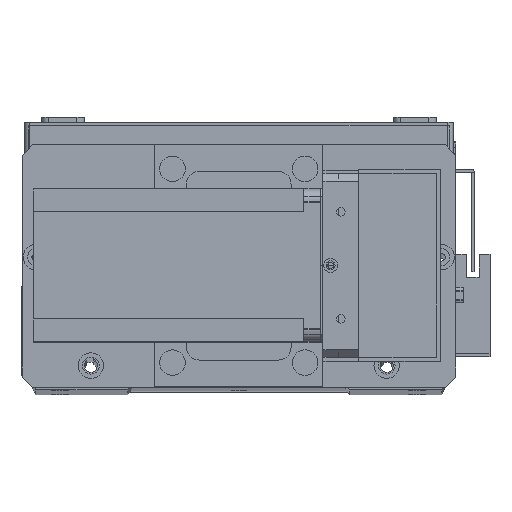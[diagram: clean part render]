
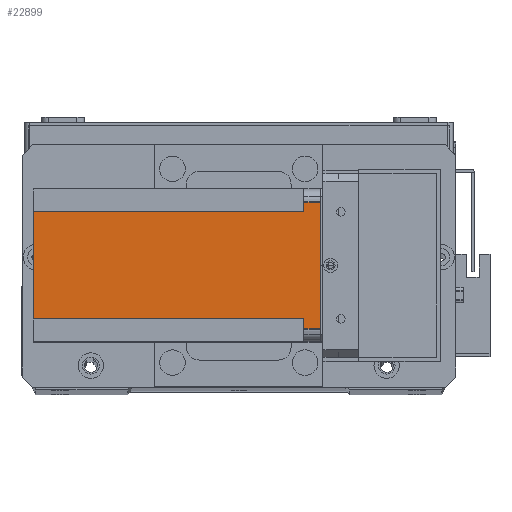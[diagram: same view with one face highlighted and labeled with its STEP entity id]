
A CAD part, top view. The second image highlights one B-rep face of the part: STEP entity #22899.
In plain terms, the highlighted planar face has unit normal (0, 0, 1) as drawn and (-1, 0, 0) by its records, which use the part's own axes.
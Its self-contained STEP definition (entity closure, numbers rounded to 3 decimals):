
#583 = DIRECTION ( 'NONE',  ( 0., 0., 1. ) ) ;
#758 = CARTESIAN_POINT ( 'NONE',  ( 0., 5., -112.5 ) ) ;
#873 = VECTOR ( 'NONE', #26463, 1000. ) ;
#2534 = ORIENTED_EDGE ( 'NONE', *, *, #23767, .F. ) ;
#2780 = VECTOR ( 'NONE', #22424, 1000. ) ;
#3725 = CARTESIAN_POINT ( 'NONE',  ( 0., 60., -6.5 ) ) ;
#4430 = VECTOR ( 'NONE', #19836, 1000. ) ;
#4813 = VERTEX_POINT ( 'NONE', #5369 ) ;
#5369 = CARTESIAN_POINT ( 'NONE',  ( 0., 5., 0. ) ) ;
#5511 = ORIENTED_EDGE ( 'NONE', *, *, #10876, .T. ) ;
#6069 = CARTESIAN_POINT ( 'NONE',  ( 0., 9., -112.5 ) ) ;
#7075 = VERTEX_POINT ( 'NONE', #22871 ) ;
#7106 = VERTEX_POINT ( 'NONE', #24589 ) ;
#7140 = CARTESIAN_POINT ( 'NONE',  ( 0., 9., -6.5 ) ) ;
#7181 = EDGE_CURVE ( 'NONE', #7075, #11929, #29492, .T. ) ;
#8027 = CARTESIAN_POINT ( 'NONE',  ( 0., 55., -112.5 ) ) ;
#8062 = ORIENTED_EDGE ( 'NONE', *, *, #12916, .F. ) ;
#8356 = VECTOR ( 'NONE', #583, 1000. ) ;
#8361 = LINE ( 'NONE', #26540, #873 ) ;
#8452 = AXIS2_PLACEMENT_3D ( 'NONE', #30949, #12118, #28667 ) ;
#8793 = LINE ( 'NONE', #758, #8356 ) ;
#9640 = ORIENTED_EDGE ( 'NONE', *, *, #9863, .F. ) ;
#9863 = EDGE_CURVE ( 'NONE', #16123, #4813, #20286, .T. ) ;
#10345 = EDGE_LOOP ( 'NONE', ( #14745, #5511, #9640, #15045, #24399, #2534, #25313, #8062 ) ) ;
#10527 = VERTEX_POINT ( 'NONE', #7140 ) ;
#10596 = CARTESIAN_POINT ( 'NONE',  ( 0., 51., -112.5 ) ) ;
#10876 = EDGE_CURVE ( 'NONE', #19137, #4813, #8793, .T. ) ;
#11025 = VECTOR ( 'NONE', #24300, 1000. ) ;
#11929 = VERTEX_POINT ( 'NONE', #6069 ) ;
#12118 = DIRECTION ( 'NONE',  ( -1., 0., 0. ) ) ;
#12916 = EDGE_CURVE ( 'NONE', #10527, #11929, #29913, .T. ) ;
#13279 = EDGE_CURVE ( 'NONE', #19137, #10527, #8361, .T. ) ;
#13796 = CARTESIAN_POINT ( 'NONE',  ( 0., 55., -6.5 ) ) ;
#14745 = ORIENTED_EDGE ( 'NONE', *, *, #13279, .F. ) ;
#15045 = ORIENTED_EDGE ( 'NONE', *, *, #26185, .T. ) ;
#15764 = DIRECTION ( 'NONE',  ( 0., 1., 0. ) ) ;
#16123 = VERTEX_POINT ( 'NONE', #30032 ) ;
#16404 = LINE ( 'NONE', #10596, #2780 ) ;
#17778 = CARTESIAN_POINT ( 'NONE',  ( 0., 0., 0. ) ) ;
#18059 = DIRECTION ( 'NONE',  ( 0., -1., 0. ) ) ;
#18713 = CARTESIAN_POINT ( 'NONE',  ( 0., 5., -6.5 ) ) ;
#19137 = VERTEX_POINT ( 'NONE', #18713 ) ;
#19826 = LINE ( 'NONE', #3725, #26212 ) ;
#19836 = DIRECTION ( 'NONE',  ( 0., 0., -1. ) ) ;
#20286 = LINE ( 'NONE', #17778, #20383 ) ;
#20383 = VECTOR ( 'NONE', #18059, 1000. ) ;
#21558 = PLANE ( 'NONE',  #8452 ) ;
#22424 = DIRECTION ( 'NONE',  ( 0., 0., 1. ) ) ;
#22871 = CARTESIAN_POINT ( 'NONE',  ( 0., 51., -112.5 ) ) ;
#22899 = ADVANCED_FACE ( 'NONE', ( #26205 ), #21558, .T. ) ;
#23617 = LINE ( 'NONE', #8027, #4430 ) ;
#23767 = EDGE_CURVE ( 'NONE', #7075, #7106, #16404, .T. ) ;
#23969 = CARTESIAN_POINT ( 'NONE',  ( 0., 9., -112.5 ) ) ;
#24300 = DIRECTION ( 'NONE',  ( 0., 0., -1. ) ) ;
#24399 = ORIENTED_EDGE ( 'NONE', *, *, #26312, .F. ) ;
#24589 = CARTESIAN_POINT ( 'NONE',  ( 0., 51., -6.5 ) ) ;
#25313 = ORIENTED_EDGE ( 'NONE', *, *, #7181, .T. ) ;
#25883 = DIRECTION ( 'NONE',  ( 0., -1., 0. ) ) ;
#26185 = EDGE_CURVE ( 'NONE', #16123, #29074, #23617, .T. ) ;
#26205 = FACE_OUTER_BOUND ( 'NONE', #10345, .T. ) ;
#26212 = VECTOR ( 'NONE', #15764, 1000. ) ;
#26312 = EDGE_CURVE ( 'NONE', #7106, #29074, #19826, .T. ) ;
#26463 = DIRECTION ( 'NONE',  ( 0., 1., 0. ) ) ;
#26540 = CARTESIAN_POINT ( 'NONE',  ( 0., 0., -6.5 ) ) ;
#28667 = DIRECTION ( 'NONE',  ( 0., -1., 0. ) ) ;
#29074 = VERTEX_POINT ( 'NONE', #13796 ) ;
#29152 = VECTOR ( 'NONE', #25883, 1000. ) ;
#29492 = LINE ( 'NONE', #30620, #29152 ) ;
#29913 = LINE ( 'NONE', #23969, #11025 ) ;
#30032 = CARTESIAN_POINT ( 'NONE',  ( 0., 55., 0. ) ) ;
#30620 = CARTESIAN_POINT ( 'NONE',  ( 0., 0., -112.5 ) ) ;
#30949 = CARTESIAN_POINT ( 'NONE',  ( 0., 0., -112.5 ) ) ;
